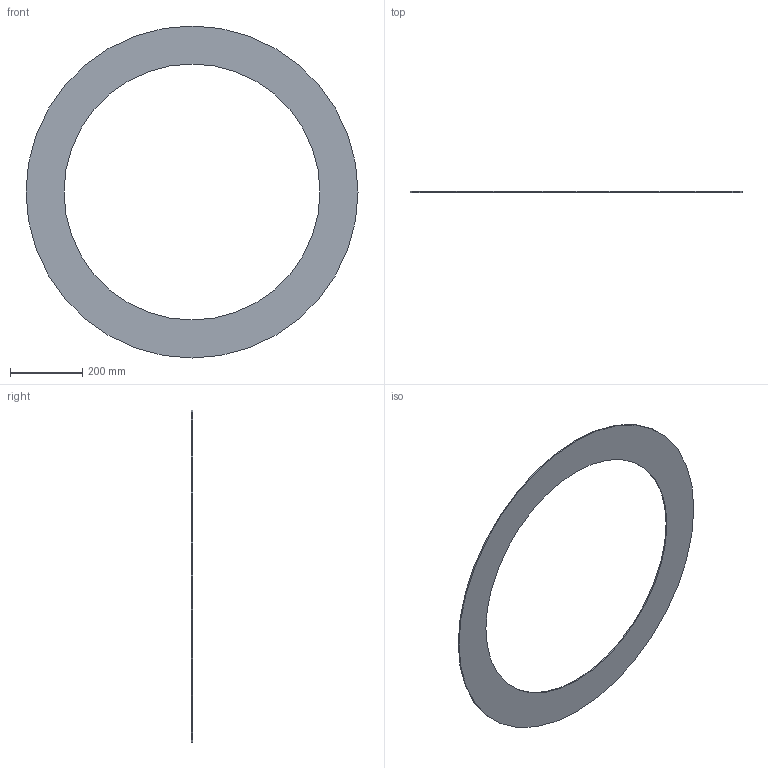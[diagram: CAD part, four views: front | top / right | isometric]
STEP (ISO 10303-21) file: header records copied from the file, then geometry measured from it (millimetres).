
FILE_DESCRIPTION(/* description */ ('Unknown'),/* implementation_level */ '2;1');
FILE_NAME(/* name */ 'GUA.800B',/* time_stamp */ '2021-04-01T14:35:35+02:00',/* author */ ('Unknown'),/* organization */ ('Unknown'),/* preprocessor_version */ 'ST-DEVELOPER v16.7',/* originating_system */ 'Solid Edge',/* authorisation */ 'Unknown');
FILE_SCHEMA (('AUTOMOTIVE_DESIGN {1 0 10303 214 3 1 1}'));
Length unit declared in the file: millimetre
Products named in the file (1): GUA.800B
Bounding box: 917 x 3 x 917 mm (x, y, z)
Volume: 803556.6 mm3; surface area: 551010.2 mm2
Topology: 1 solids, 1 shells, 4 faces, 6 edges, 4 vertices
Faces by surface type: cylinder 2, plane 2
Full cylindrical faces by diameter (mm): 707 x1, 917 x1
Entity records: 118 total; most frequent: DIRECTION 18, CARTESIAN_POINT 13, AXIS2_PLACEMENT_3D 9, ORIENTED_EDGE 8, EDGE_LOOP 8, FACE_BOUND 8, EDGE_CURVE 4, VERTEX_POINT 4
